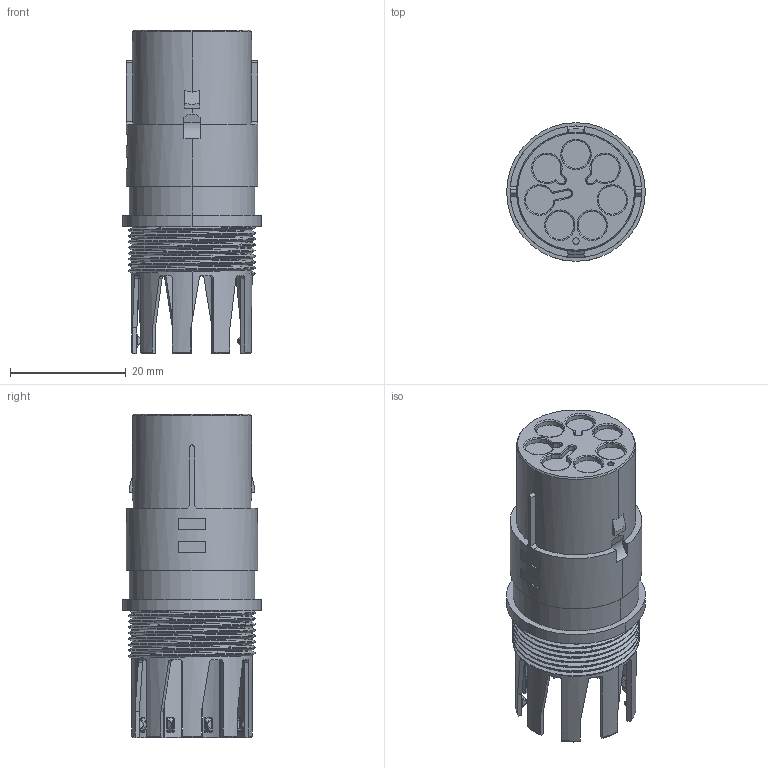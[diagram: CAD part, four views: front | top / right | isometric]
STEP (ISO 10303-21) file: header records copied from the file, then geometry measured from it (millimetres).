
FILE_DESCRIPTION((''),'2;1');
FILE_NAME('C-293616-2','2014-03-28T',('workeradm'),('Tyco Electronics Ltd.'),'PRO/ENGINEER BY PARAMETRIC TECHNOLOGY CORPORATION, 2013050','PRO/ENGINEER BY PARAMETRIC TECHNOLOGY CORPORATION, 2013050','');
FILE_SCHEMA(('AUTOMOTIVE_DESIGN { 1 0 10303 214 1 1 1 1 }'));
Length unit declared in the file: millimetre
Products named in the file (1): C-293616-2
Bounding box: 24 x 24 x 56 mm (x, y, z)
Volume: 9328.8 mm3; surface area: 6946.8 mm2
Topology: 1 solids, 1 shells, 601 faces, 1460 edges, 891 vertices
Faces by surface type: plane 201, cylinder 183, bspline 84, torus 39, cone 38, sphere 24, extrusion 16, revolution 16
Entity records: 36167 total; most frequent: CARTESIAN_POINT 18331, ORIENTED_EDGE 2920, DIRECTION 2531, PRESENTATION_STYLE_ASSIGNMENT 1461, STYLED_ITEM 1461, CURVE_STYLE 1460, EDGE_CURVE 1460, AXIS2_PLACEMENT_3D 952
